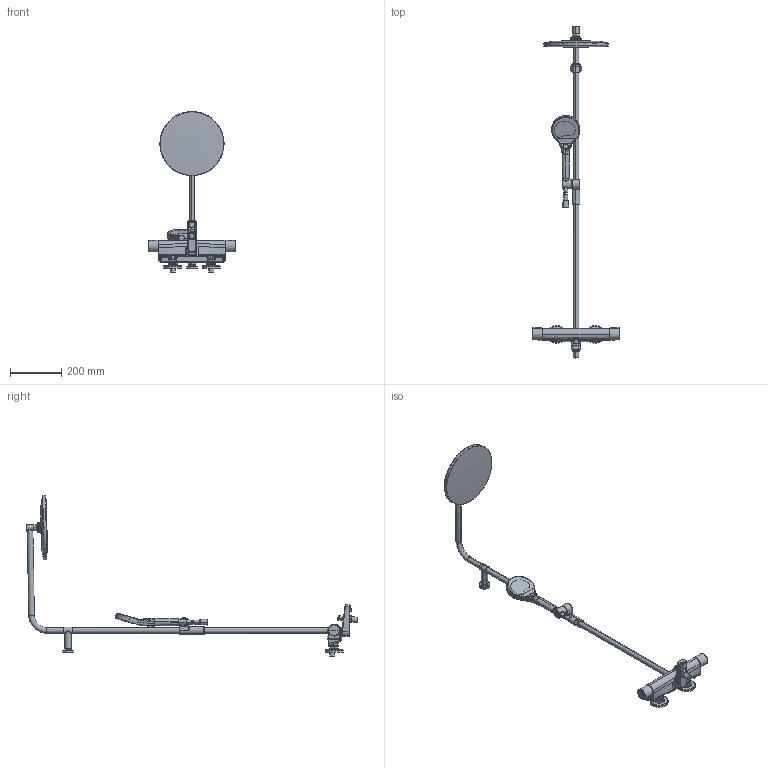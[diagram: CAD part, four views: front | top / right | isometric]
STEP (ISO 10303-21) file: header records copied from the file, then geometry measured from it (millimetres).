
FILE_DESCRIPTION (( 'STEP AP203' ), '1' );
FILE_NAME ('7193NU(2023)+65162201(2023).STEP', '2025-06-16T05:27:36', ( '' ), ( '' ), 'SwSTEP 2.0', 'SolidWorks 2024', '' );
FILE_SCHEMA (( 'CONFIG_CONTROL_DESIGN' ));
Products named in the file (1): 7193NU(2023)+65162201(2023)
Bounding box: 342.65 x 1292.95 x 626.86 mm (x, y, z)
Volume: 3424665.5 mm3; surface area: 614739.6 mm2
Topology: 29 solids, 29 shells, 1353 faces, 3181 edges, 1853 vertices
Faces by surface type: bspline 742, cylinder 244, plane 170, cone 112, torus 63, sphere 22
Entity records: 90106 total; most frequent: CARTESIAN_POINT 65044, ORIENTED_EDGE 6248, DIRECTION 3621, EDGE_CURVE 3124, VERTEX_POINT 1854, AXIS2_PLACEMENT_3D 1555, B_SPLINE_CURVE_WITH_KNOTS 1548, EDGE_LOOP 1388
